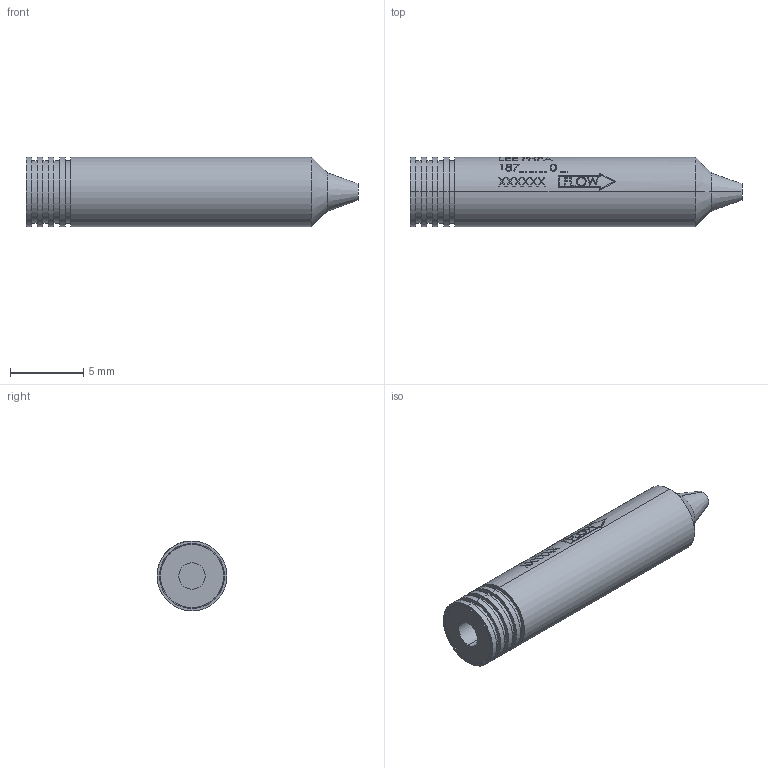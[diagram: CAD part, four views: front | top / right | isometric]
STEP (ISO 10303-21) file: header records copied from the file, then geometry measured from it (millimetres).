
FILE_DESCRIPTION (( 'STEP AP214' ), '1' );
FILE_NAME ('3DFHFA187---0--.STEP', '2021-03-29T12:14:35', ( '' ), ( '' ), 'SwSTEP 2.0', 'SolidWorks 2019', '' );
FILE_SCHEMA (( 'AUTOMOTIVE_DESIGN' ));
Length unit declared in the file: inch
Products named in the file (1): 3DFHFA187---0--
Bounding box: 22.61 x 4.76 x 4.76 mm (x, y, z)
Volume: 348.7 mm3; surface area: 394.5 mm2
Topology: 1 solids, 1 shells, 348 faces, 900 edges, 598 vertices
Faces by surface type: plane 166, bspline 120, cylinder 56, cone 6
Entity records: 16619 total; most frequent: CARTESIAN_POINT 5108, ORIENTED_EDGE 1800, DIRECTION 1114, EDGE_CURVE 900, VERTEX_POINT 598, B_SPLINE_CURVE_WITH_KNOTS 406, EDGE_LOOP 392, AXIS2_PLACEMENT_3D 391
